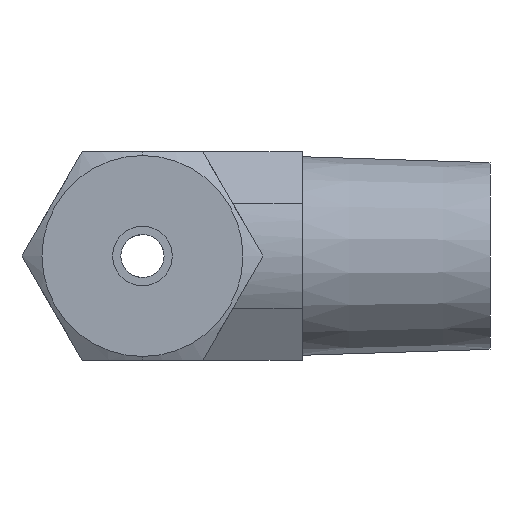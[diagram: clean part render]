
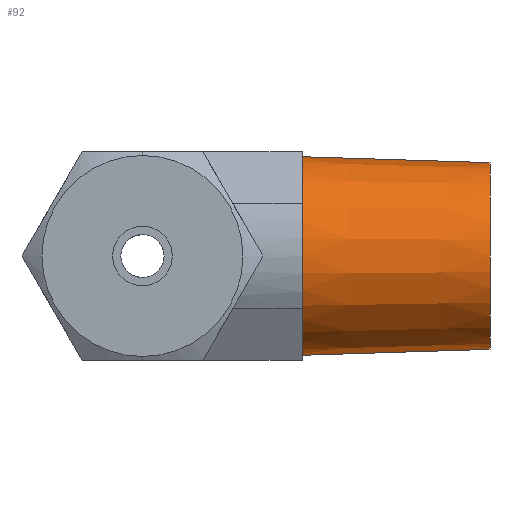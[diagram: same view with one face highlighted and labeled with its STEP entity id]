
A CAD part, left-side view. The second image highlights one B-rep face of the part: STEP entity #92.
In plain terms, the highlighted conical face has half-angle 1.8 degrees and reference radius 5.1 mm.
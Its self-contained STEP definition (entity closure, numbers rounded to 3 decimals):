
#89 = VERTEX_POINT ( 'NONE', #956 ) ;
#91 = ORIENTED_EDGE ( 'NONE', *, *, #155, .F. ) ;
#92 = ADVANCED_FACE ( 'NONE', ( #954 ), #1013, .T. ) ;
#93 = EDGE_LOOP ( 'NONE', ( #91, #153, #98, #145 ) ) ;
#98 = ORIENTED_EDGE ( 'NONE', *, *, #144, .T. ) ;
#144 = EDGE_CURVE ( 'NONE', #152, #148, #1123, .T. ) ;
#145 = ORIENTED_EDGE ( 'NONE', *, *, #146, .F. ) ;
#146 = EDGE_CURVE ( 'NONE', #156, #148, #1124, .T. ) ;
#148 = VERTEX_POINT ( 'NONE', #1115 ) ;
#152 = VERTEX_POINT ( 'NONE', #1164 ) ;
#153 = ORIENTED_EDGE ( 'NONE', *, *, #154, .T. ) ;
#154 = EDGE_CURVE ( 'NONE', #89, #152, #1159, .T. ) ;
#155 = EDGE_CURVE ( 'NONE', #89, #156, #1155, .T. ) ;
#156 = VERTEX_POINT ( 'NONE', #1150 ) ;
#953 = CARTESIAN_POINT ( 'NONE',  ( 0., -14.4, 0. ) ) ;
#954 = FACE_OUTER_BOUND ( 'NONE', #93, .T. ) ;
#956 = CARTESIAN_POINT ( 'NONE',  ( 0., -18.5, 4.971 ) ) ;
#1010 = DIRECTION ( 'NONE',  ( 0., 0., -1. ) ) ;
#1011 = DIRECTION ( 'NONE',  ( 0., 1., 0. ) ) ;
#1012 = AXIS2_PLACEMENT_3D ( 'NONE', #953, #1011, #1010 ) ;
#1013 = CONICAL_SURFACE ( 'NONE', #1012, 5.1, 0.031 ) ;
#1115 = CARTESIAN_POINT ( 'NONE',  ( 0., -8.5, -5.285 ) ) ;
#1116 = DIRECTION ( 'NONE',  ( 0., 1., -0.031 ) ) ;
#1117 = VECTOR ( 'NONE', #1116, 1000. ) ;
#1118 = CARTESIAN_POINT ( 'NONE',  ( 0., -14.4, -5.1 ) ) ;
#1119 = DIRECTION ( 'NONE',  ( 0., 0., 1. ) ) ;
#1120 = DIRECTION ( 'NONE',  ( 0., -1., 0. ) ) ;
#1121 = CARTESIAN_POINT ( 'NONE',  ( 0., -8.5, 0. ) ) ;
#1122 = AXIS2_PLACEMENT_3D ( 'NONE', #1121, #1120, #1119 ) ;
#1123 = CIRCLE ( 'NONE', #1122, 5.285 ) ;
#1124 = LINE ( 'NONE', #1118, #1117 ) ;
#1150 = CARTESIAN_POINT ( 'NONE',  ( 0., -18.5, -4.971 ) ) ;
#1151 = DIRECTION ( 'NONE',  ( 0., 0., -1. ) ) ;
#1152 = DIRECTION ( 'NONE',  ( 0., -1., 0. ) ) ;
#1153 = CARTESIAN_POINT ( 'NONE',  ( 0., -18.5, 0. ) ) ;
#1154 = AXIS2_PLACEMENT_3D ( 'NONE', #1153, #1152, #1151 ) ;
#1155 = CIRCLE ( 'NONE', #1154, 4.971 ) ;
#1156 = DIRECTION ( 'NONE',  ( 0., 1., 0.031 ) ) ;
#1157 = VECTOR ( 'NONE', #1156, 1000. ) ;
#1158 = CARTESIAN_POINT ( 'NONE',  ( 0., -14.4, 5.1 ) ) ;
#1159 = LINE ( 'NONE', #1158, #1157 ) ;
#1164 = CARTESIAN_POINT ( 'NONE',  ( 0., -8.5, 5.285 ) ) ;
